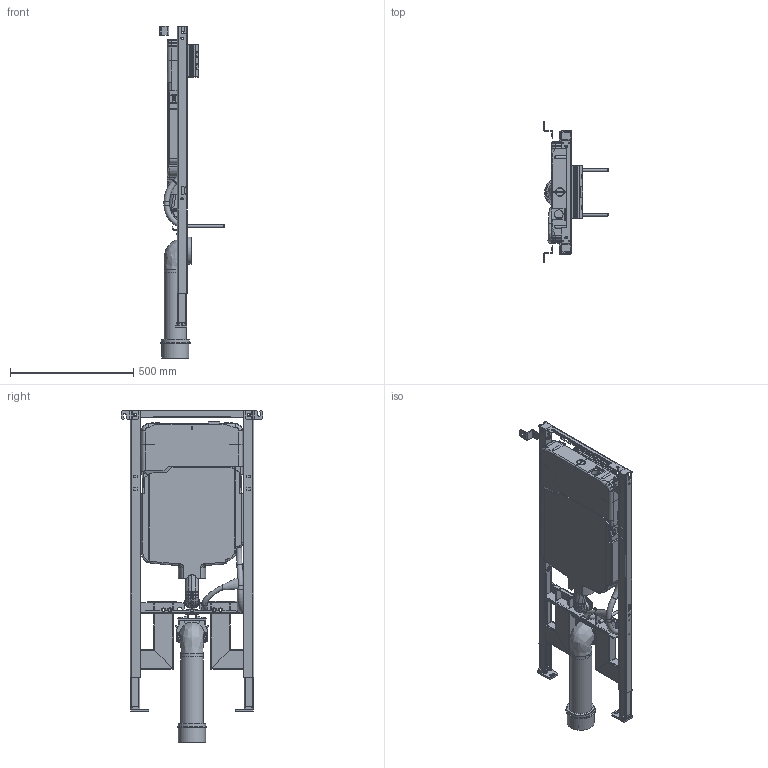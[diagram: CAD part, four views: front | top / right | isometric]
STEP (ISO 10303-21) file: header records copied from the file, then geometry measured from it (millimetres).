
FILE_DESCRIPTION(/* description */ (''),/* implementation_level */ '2;1');
FILE_NAME(/* name */ 'H:\Geberit-Teile\Export\DF WC Sig8 (2016)\stp\111796.stp',/* time_stamp */ '2015-11-19T11:55:34+01:00',/* author */ ('seihe2'),/* organization */ (''),/* preprocessor_version */ 'ST-DEVELOPER v15.2',/* originating_system */ 'Autodesk Inventor 2014',/* authorisation */ '');
FILE_SCHEMA (('AUTOMOTIVE_DESIGN { 1 0 10303 214 3 1 1 }'));
Products named in the file (1): 111796
Bounding box: 260 x 573 x 1344.25 mm (x, y, z)
Volume: 33824352.1 mm3; surface area: 5238030.8 mm2
Topology: 37 solids, 38 shells, 3779 faces, 10024 edges, 6370 vertices
Faces by surface type: plane 2017, cylinder 973, bspline 586, torus 155, cone 48
Full cylindrical faces by diameter (mm): 4 x1, 4.5 x12, 4.7 x4, 5.3 x4, 5.5 x1, 6 x14, 8 x4, 10 x2, 10.5 x2, 11.25 x4, 12 x4, 13 x2, 13.2 x4, 14 x2, 17.25 x4, 22 x14, 24 x2, 35.7 x2, 45.7 x4, 51.7 x4, 53 x2, 55.91 x2, 58 x2, 59 x6, 60 x2, 65 x6, 70 x4, 76 x2, 79 x1, 83.025 x1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
Entity records: 152665 total; most frequent: CARTESIAN_POINT 57503, ORIENTED_EDGE 19486, DIRECTION 17851, EDGE_CURVE 9743, VERTEX_POINT 6322, LINE 6025, VECTOR 6025, AXIS2_PLACEMENT_3D 5913
